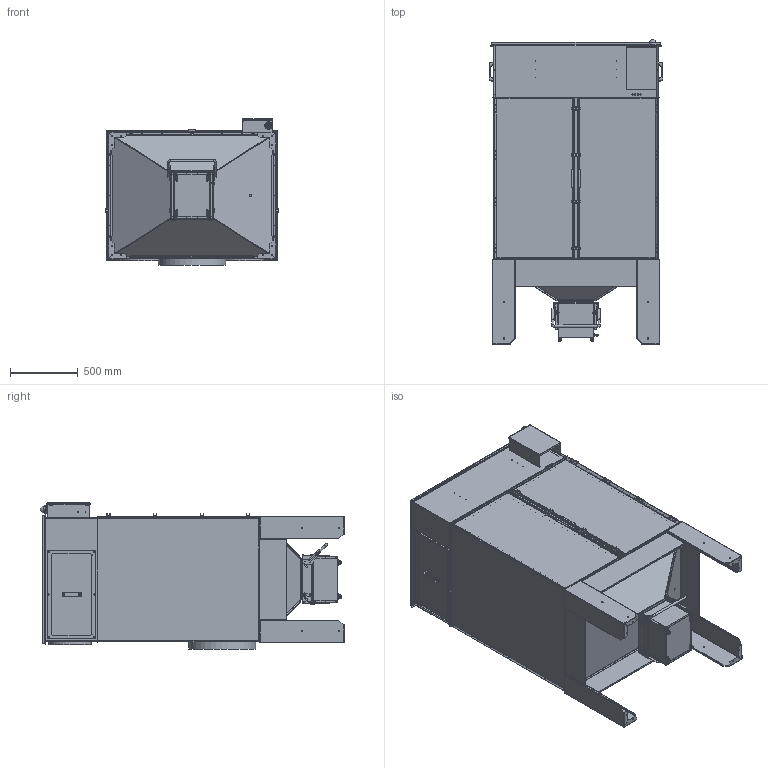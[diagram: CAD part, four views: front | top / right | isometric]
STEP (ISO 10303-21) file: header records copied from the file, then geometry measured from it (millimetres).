
FILE_DESCRIPTION(/* description */ (''),/* implementation_level */ '2;1');
FILE_NAME(/* name */ '15-495 Geofilter GFB2 W3 12-4 v18 v37 ny.step',/* time_stamp */ '2023-11-29T08:47:04+01:00',/* author */ (''),/* organization */ (''),/* preprocessor_version */ 'ST-DEVELOPER v20',/* originating_system */ 'Autodesk Translation Framework v12.14.0.127',/* authorisation */ '');
FILE_SCHEMA (('AUTOMOTIVE_DESIGN { 1 0 10303 214 3 1 1 }'));
Products named in the file (2): (Unsaved); Component180
Assembly tree (1 placements, depth 2):
  (Unsaved)
    Component180
Bounding box: 1278.99 x 2246.63 x 1079.14 mm (x, y, z)
Volume: 21348183.7 mm3; surface area: 24889684.6 mm2
Topology: 1 solids, 1 shells, 5580 faces, 15811 edges, 10273 vertices
Faces by surface type: plane 3636, cylinder 1625, cone 142, bspline 90, torus 84, sphere 3
Full cylindrical faces by diameter (mm): 1 x1, 2.729 x2, 3 x12, 3.3 x10, 4.5 x6, 5 x494, 5.1 x48, 6 x40, 6.713 x8, 7 x15, 7.094 x1, 7.137 x1, 7.188 x1, 7.518 x1, 8 x12, 8.6 x8, 9 x20, 10 x8, 10.922 x1, 11 x4, 11.582 x1, 12 x5, 14.275 x1, 15.088 x1, 17 x4, 18 x4, 20 x8, 21 x8, 26.6 x4, 30.611 x1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
Entity records: 200114 total; most frequent: CARTESIAN_POINT 52026, ORIENTED_EDGE 31638, DIRECTION 30195, EDGE_CURVE 15819, VERTEX_POINT 10287, AXIS2_PLACEMENT_3D 10201, LINE 9793, VECTOR 9793
